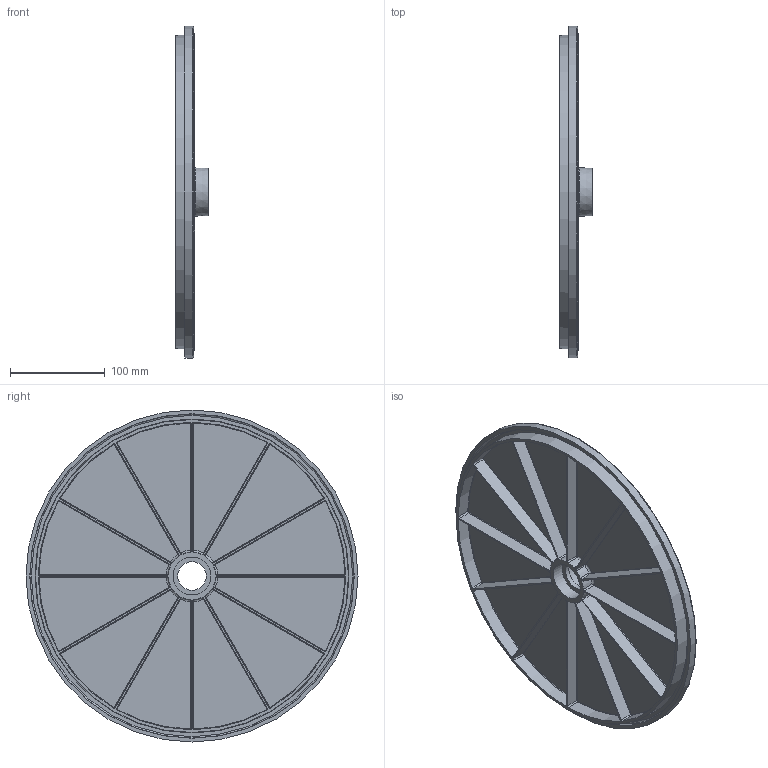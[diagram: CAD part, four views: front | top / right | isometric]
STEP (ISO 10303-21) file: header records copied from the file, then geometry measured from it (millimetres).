
FILE_DESCRIPTION((''),'2;1');
FILE_NAME('X:\Ritarkiv\STEP-Carryline Standarddelar\830-5057.stp','2009-06-25T07:25:35',('marcus'),(''),'Autodesk Inventor 2009','Autodesk Inventor 2009','');
FILE_SCHEMA(('AUTOMOTIVE_DESIGN { 1 0 10303 214 1 1 1 1 }'));
Length unit declared in the file: millimetre
Products named in the file (1): 830-5057
Bounding box: 34 x 350 x 350 mm (x, y, z)
Volume: 611512.8 mm3; surface area: 287212.2 mm2
Topology: 1 solids, 1 shells, 496 faces, 1217 edges, 754 vertices
Faces by surface type: plane 285, bspline 120, cylinder 36, cone 28, torus 27
Full cylindrical faces by diameter (mm): 30 x1, 40 x2, 350 x1
Entity records: 18226 total; most frequent: CARTESIAN_POINT 7305, ORIENTED_EDGE 2364, DIRECTION 2042, EDGE_CURVE 1182, VERTEX_POINT 754, VECTOR 692, LINE 692, AXIS2_PLACEMENT_3D 675
